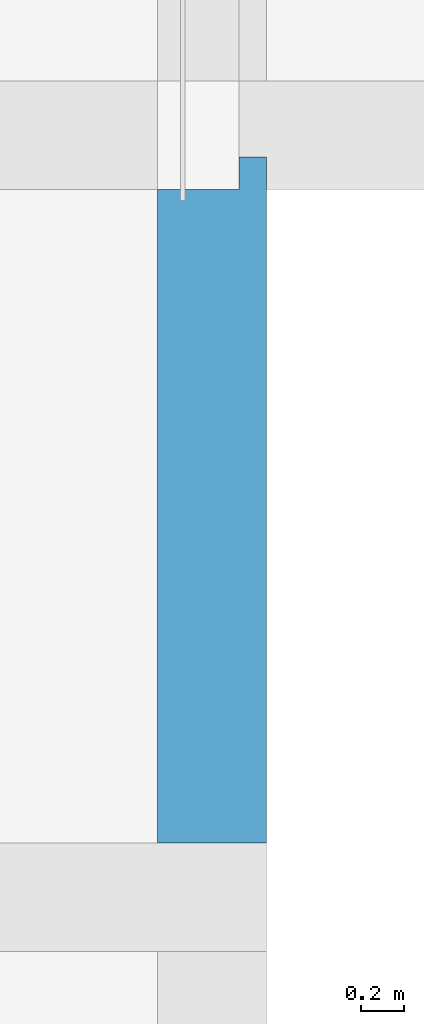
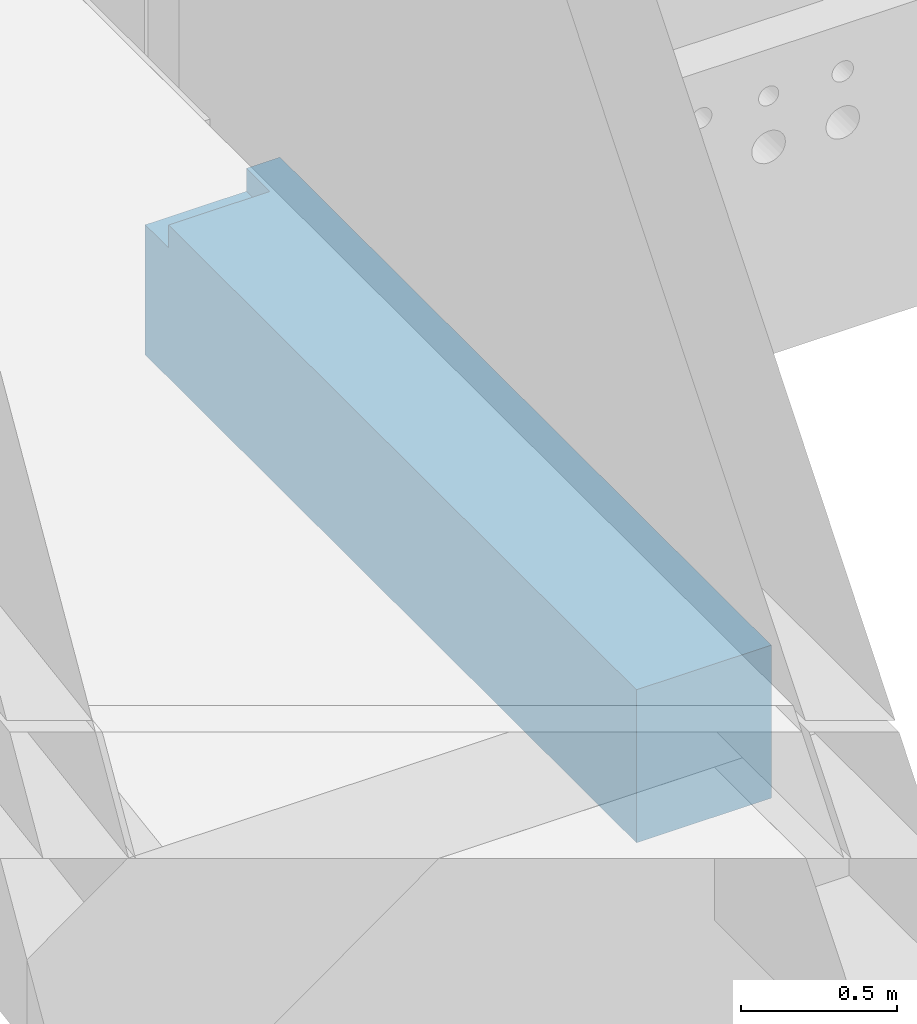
# One storey, part 53 of 60: 1 footing.
"""IFC2X3 building model written with IfcOpenShell, lengths in millimetres."""

from ifc_helpers import new_model, entity, si_unit, converted_unit, derived_unit, direction, frame, origin, place, context, subcontext, project, spatial, faceted_brep, material, element, save


model = new_model("IFC2X3")

# Units and contexts
model_context = context("Model", 3, precision=0.01, world=origin(), true_north=direction((6.12303176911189e-17, 1.0)))
body_context = subcontext(model_context, "Body", "Model", "MODEL_VIEW")
ifc_project = project(units=[si_unit("LENGTHUNIT", "METRE", prefix="MILLI"), si_unit("AREAUNIT", "SQUARE_METRE"), si_unit("VOLUMEUNIT", "CUBIC_METRE"), converted_unit("PLANEANGLEUNIT", "DEGREE", entity("IfcRatioMeasure", 0.0174532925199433), si_unit("PLANEANGLEUNIT", "RADIAN"), dimensions=[0, 0, 0, 0, 0, 0, 0]), si_unit("MASSUNIT", "GRAM", prefix="KILO"), derived_unit("MASSDENSITYUNIT", [(si_unit("MASSUNIT", "GRAM", prefix="KILO"), 1), (si_unit("LENGTHUNIT", "METRE"), -3)]), si_unit("TIMEUNIT", "SECOND"), si_unit("FREQUENCYUNIT", "HERTZ"), si_unit("THERMODYNAMICTEMPERATUREUNIT", "DEGREE_CELSIUS"), derived_unit("THERMALTRANSMITTANCEUNIT", [(si_unit("MASSUNIT", "GRAM", prefix="KILO"), 1), (si_unit("THERMODYNAMICTEMPERATUREUNIT", "KELVIN"), -1), (si_unit("TIMEUNIT", "SECOND"), -3)]), derived_unit("VOLUMETRICFLOWRATEUNIT", [(si_unit("LENGTHUNIT", "METRE"), 3), (si_unit("TIMEUNIT", "SECOND"), -1)]), si_unit("ELECTRICCURRENTUNIT", "AMPERE"), si_unit("ELECTRICVOLTAGEUNIT", "VOLT"), si_unit("POWERUNIT", "WATT"), si_unit("FORCEUNIT", "NEWTON", prefix="KILO"), si_unit("ILLUMINANCEUNIT", "LUX"), si_unit("LUMINOUSFLUXUNIT", "LUMEN"), si_unit("LUMINOUSINTENSITYUNIT", "CANDELA"), derived_unit("USERDEFINED", [(si_unit("MASSUNIT", "GRAM", prefix="KILO"), -1), (si_unit("LENGTHUNIT", "METRE"), -2), (si_unit("TIMEUNIT", "SECOND"), 3), (si_unit("LUMINOUSFLUXUNIT", "LUMEN"), 1)]), derived_unit("LINEARVELOCITYUNIT", [(si_unit("LENGTHUNIT", "METRE"), 1), (si_unit("TIMEUNIT", "SECOND"), -1)]), si_unit("PRESSUREUNIT", "PASCAL"), derived_unit("USERDEFINED", [(si_unit("LENGTHUNIT", "METRE"), -2), (si_unit("MASSUNIT", "GRAM", prefix="KILO"), 1), (si_unit("TIMEUNIT", "SECOND"), -2)])], contexts=[model_context])

# Site, building, storey
site_placement = place(None, origin())
site = spatial("IfcSite", under=ifc_project, at=site_placement, Name="Default", CompositionType="ELEMENT")
building_placement = place(site_placement, origin())
building = spatial("IfcBuilding", under=site, at=building_placement, Name="niet gebruiken", CompositionType="ELEMENT")
storey_placement = place(building_placement, origin())
storey = spatial("IfcBuildingStorey", under=building, at=storey_placement, Name="00 begane grond", CompositionType="ELEMENT", Elevation=0.0)

# Footing
ifc_material = material(Name="NLRS_f2_beton ihwg")
footing_placement = place(storey_placement, frame((2425.0, -2955.0, -1002.0)))
element("IfcFooting", 1, at=footing_placement, inside=storey, material=ifc_material, Name="NLRS_16.12_SF_WPB_funderingsbalk ihwg recht_gen:500x600", ObjectType="NLRS_16.12_SF_WPB_funderingsbalk ihwg recht_gen:500x600", PredefinedType="FOOTING_BEAM", context=body_context, shape_type="Brep", body=[
    faceted_brep([(0.0, 0.0, 600.0), (0.0, 0.0, 0.0), (500.0, 0.0, 0.0), (500.0, 0.0, 600.0), (500.0, 3155.0, 600.0), (500.0, 3155.0, 510.0), (500.0, 3155.0, 0.0), (0.0, 3155.0, 0.0), (0.0, 3155.0, 510.0), (375.0, 3155.0, 510.0), (375.0, 3155.0, 600.0), (0.0, 3005.0, 600.0), (0.0, 3005.0, 510.0), (0.0, 3005.0, 0.0), (500.0, 3005.0, 0.0), (375.0, 3005.0, 600.0), (375.0, 3005.0, 510.0)], [[[0, 1, 2, 3]], [[4, 5, 6, 7, 8, 9, 10]], [[1, 0, 11, 12, 8, 7, 13]], [[2, 1, 13, 7, 6, 14]], [[3, 2, 14, 6, 5, 4]], [[0, 3, 4, 10, 15, 11]], [[12, 16, 9, 8]], [[16, 12, 11, 15]], [[16, 15, 10, 9]]]),
])

save(model, "model.ifc")
